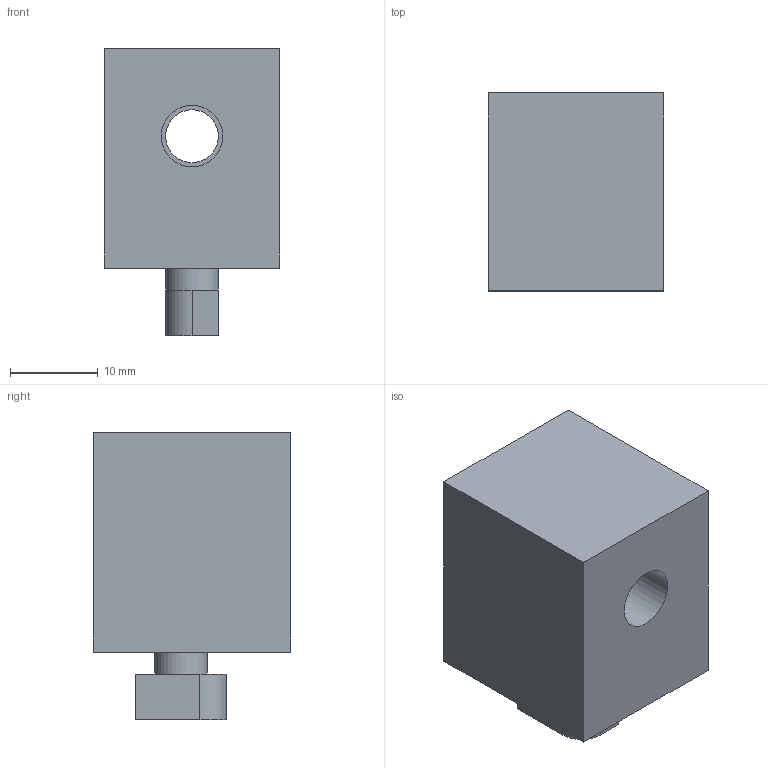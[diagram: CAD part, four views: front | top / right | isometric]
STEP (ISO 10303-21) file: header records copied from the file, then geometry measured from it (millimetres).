
FILE_DESCRIPTION((''),'2;1');
FILE_NAME('C:\Documents and Settings\古川典政\My Documents\Inventor\HP用\MasterData\BRACKET\M6\PMC-06-6.stp','2008-07-31T09:39:52',(''),(''),'Autodesk Inventor 2008','Autodesk Inventor 2008','');
FILE_SCHEMA(('CONFIG_CONTROL_DESIGN'));
Length unit declared in the file: millimetre
Products named in the file (1): PMC-06-6
Bounding box: 20 x 22.5 x 32.7 mm (x, y, z)
Volume: 10807.2 mm3; surface area: 3710 mm2
Topology: 1 solids, 1 shells, 21 faces, 47 edges, 31 vertices
Faces by surface type: plane 13, bspline 5, cylinder 3
Full cylindrical faces by diameter (mm): 6 x1
Entity records: 608 total; most frequent: CARTESIAN_POINT 149, DIRECTION 88, ORIENTED_EDGE 82, EDGE_CURVE 41, AXIS2_PLACEMENT_3D 30, EDGE_LOOP 30, VERTEX_POINT 29, VECTOR 28
